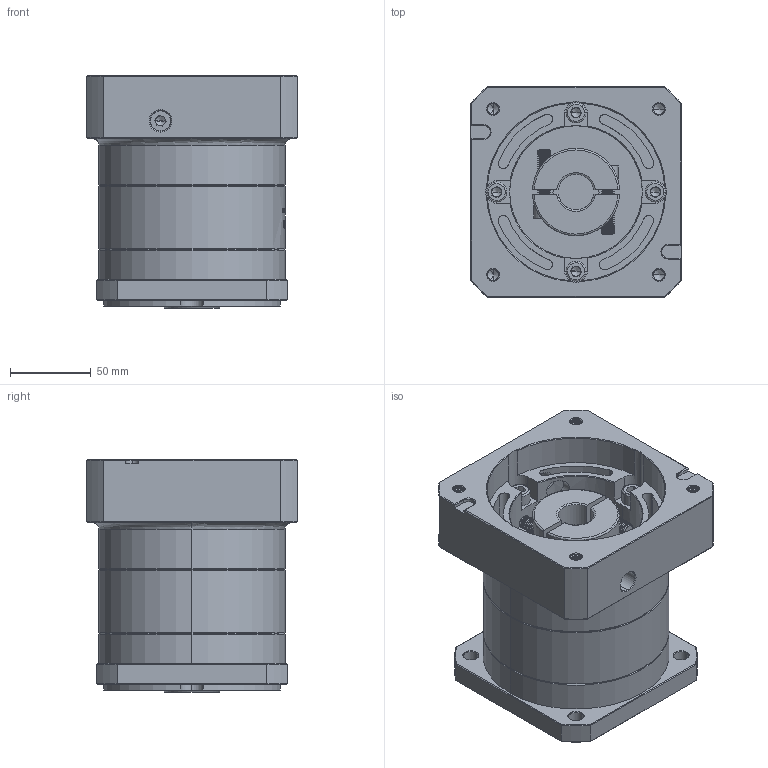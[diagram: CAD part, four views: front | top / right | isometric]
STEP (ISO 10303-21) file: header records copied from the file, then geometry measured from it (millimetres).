
FILE_DESCRIPTION (( 'STEP AP214' ), '1' );
FILE_NAME ('ZF120A-K25-L1-22-110-145-M8.step', '2023-03-07T09:36:43', ( '' ), ( '' ), 'SwSTEP 2.0', 'SolidWorks 2016', '' );
FILE_SCHEMA (( 'AUTOMOTIVE_DESIGN' ));
Length unit declared in the file: millimetre
Products named in the file (1): ZF120A-K25-L1-22-110-145-M8
Bounding box: 130 x 130 x 144 mm (x, y, z)
Volume: 1411121.3 mm3; surface area: 179665.3 mm2
Topology: 6 solids, 6 shells, 1945 faces, 5130 edges, 3277 vertices
Faces by surface type: plane 876, cylinder 416, cone 321, bspline 314, torus 18
Entity records: 104922 total; most frequent: CARTESIAN_POINT 39007, ORIENTED_EDGE 10204, DIRECTION 7977, EDGE_CURVE 5102, VERTEX_POINT 3277, VECTOR 2771, LINE 2771, AXIS2_PLACEMENT_3D 2603
